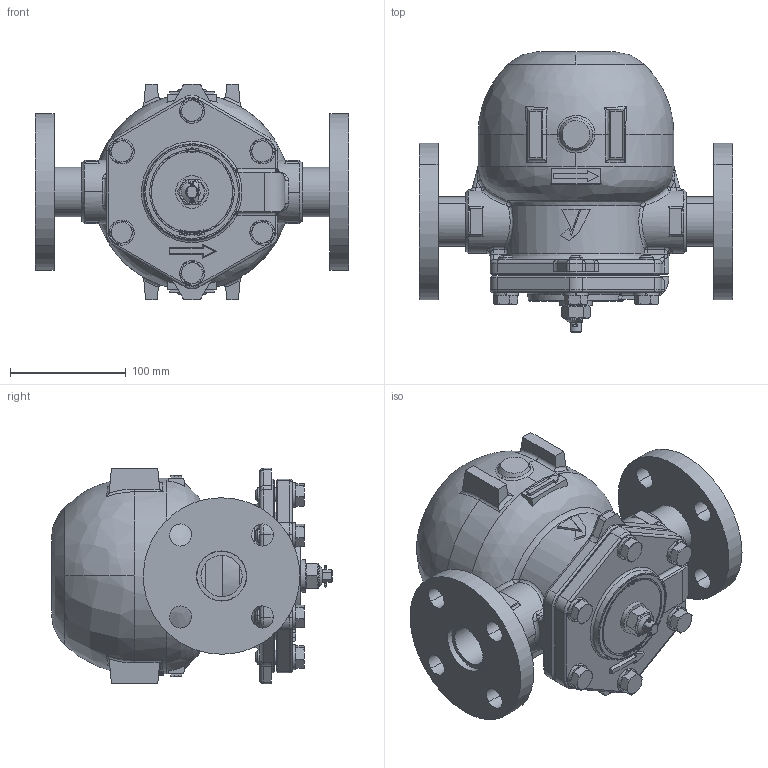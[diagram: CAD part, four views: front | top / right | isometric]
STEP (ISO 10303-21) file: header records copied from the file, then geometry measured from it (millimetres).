
FILE_DESCRIPTION( (''), '2;1');
FILE_NAME ('PC1027.12188.TSF-11SF JIS10KFF 32A_28320.stp','2025-07-31T10:17:06',(''),(''),'spGate 20.6.3 (****-****-****-****)','','');
FILE_SCHEMA (('AUTOMOTIVE_DESIGN'));
Length unit declared in the file: millimetre
Products named in the file (13): Assembly; SOP 10K 32A; CP_SUS_Q_Q''_SUS304TP 32AxSch40x260_5126; _{__32A ____; 3D_@TSF-10_@_____s__; 3D_@TSF-10_@_Z_p_i_b_g; 3D_@TSF-10_@_J___[; 3D_@TSF-11_@________; ____; _R_b_N____; CP_''_JIS B 1180 _____a_Z_p_{___g''_17168; SSLW12; ________
Assembly tree (23 placements, depth 2):
  Assembly
    SOP 10K 32A  x2
    CP_SUS_Q_Q''_SUS304TP 32AxSch40x260_5126
    _{__32A ____
    3D_@TSF-10_@_____s__
    3D_@TSF-10_@_Z_p_i_b_g
    3D_@TSF-10_@_J___[
    3D_@TSF-11_@________
    ____
    _R_b_N____
    CP_''_JIS B 1180 _____a_Z_p_{___g''_17168  x6
    SSLW12  x6
    ________
Bounding box: 270 x 242 x 186 mm (x, y, z)
Volume: 4283659.3 mm3; surface area: 379804.5 mm2
Topology: 23 solids, 23 shells, 970 faces, 3194 edges, 2281 vertices
Faces by surface type: plane 417, bspline 309, cylinder 244
Entity records: 64190 total; most frequent: CARTESIAN_POINT 26802, ORIENTED_EDGE 5076, COLOUR_RGB 3356, PRESENTATION_STYLE_ASSIGNMENT 3356, STYLED_ITEM 3356, DIRECTION 2544, EDGE_CURVE 2538, DRAUGHTING_PRE_DEFINED_CURVE_FONT 2538
